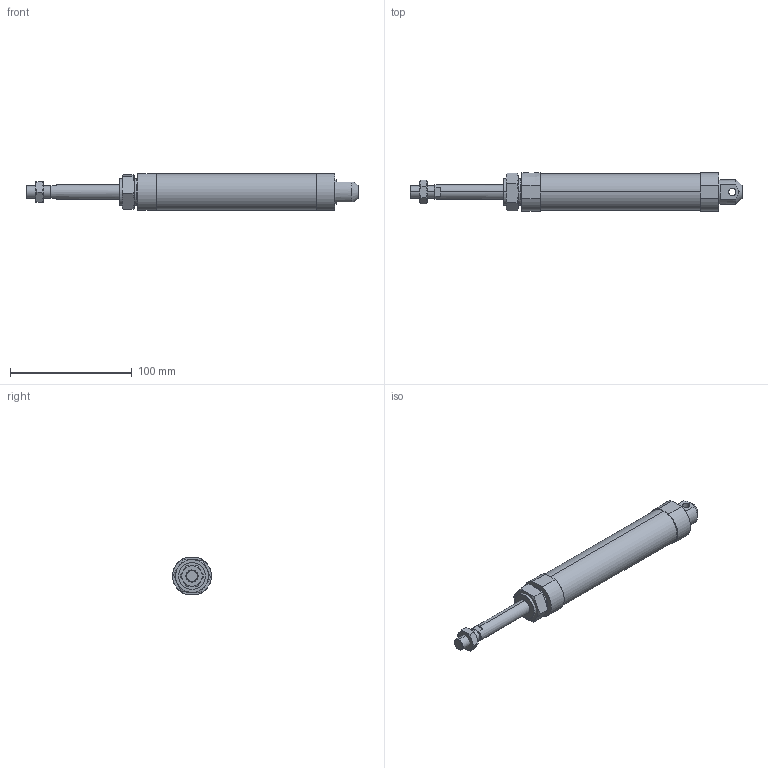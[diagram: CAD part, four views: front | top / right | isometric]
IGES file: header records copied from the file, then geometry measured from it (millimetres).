
Start section: SolidWorks IGES file using analytic representation for surfaces
Global section: file name: C:\Users\Toshiba\Desktop\J#0-25-50-C.IGS; native system: SolidWorks 2014; preprocessor: SolidWorks 2014; author: Toshiba; date: 160308.143620; units: millimetre
Bounding box: 273 x 32 x 30 mm (x, y, z)
Surface area: 25639.1 mm2 (no closed solid volume)
Topology: 0 solids, 0 shells, 95 faces, 1746 edges, 1746 vertices
Faces by surface type: bspline 65, revolution 30
